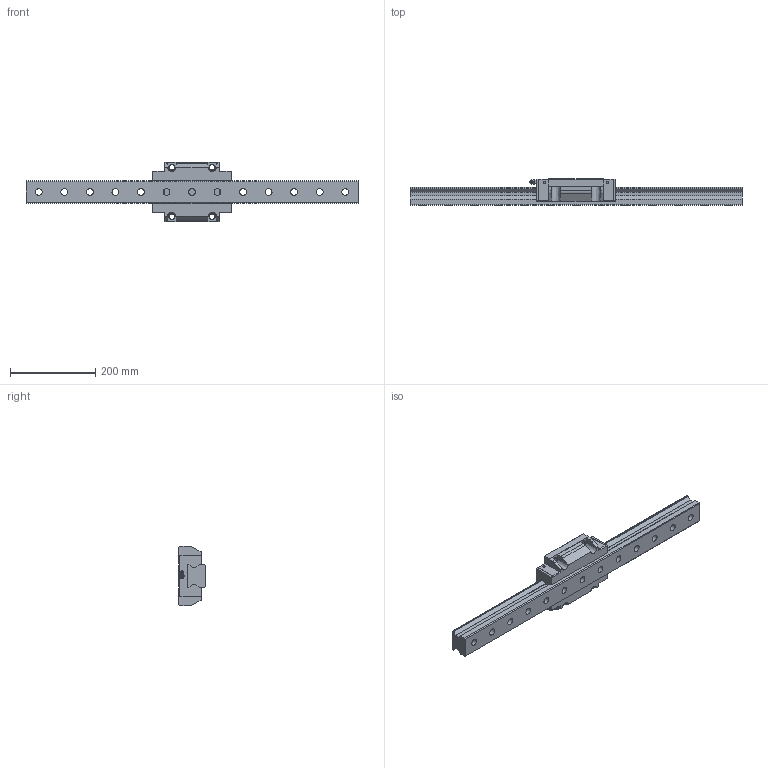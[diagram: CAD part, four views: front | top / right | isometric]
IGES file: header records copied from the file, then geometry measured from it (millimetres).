
Start section: Data from Parasolid IGES Translator 26.0.171, Copyright(c) 2006 Siemens PLM Software. All Rights Reserved.
Global section: file name: SRN55C1SS-780L_G30_0_B-PT18_297-5_0_0_0_1.igs; native system: By Siemens PLM Incorporated; preprocessor: XPlus GENERIC/IGES 26.0.171; author: Noname; organization: Noname; date: 20240523.104233; units: millimetre
Bounding box: 780 x 63 x 140 mm (x, y, z)
Surface area: 288489.9 mm2 (no closed solid volume)
Topology: 0 solids, 0 shells, 252 faces, 1359 edges, 1284 vertices
Faces by surface type: extrusion 158, revolution 94
